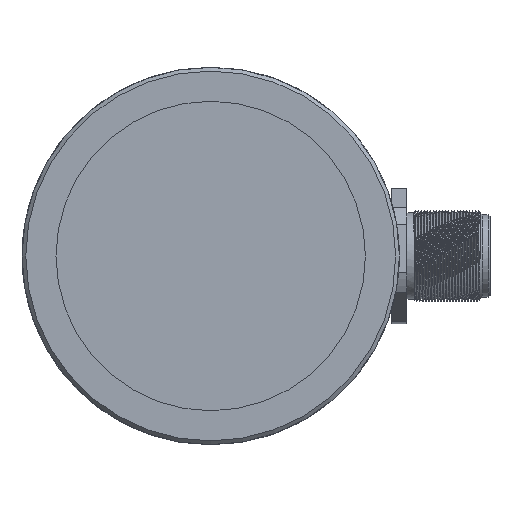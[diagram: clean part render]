
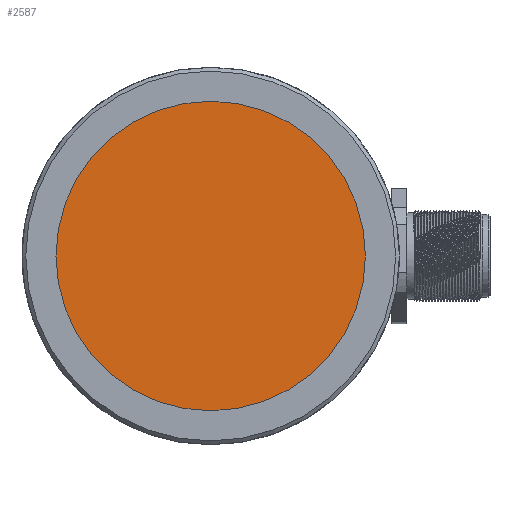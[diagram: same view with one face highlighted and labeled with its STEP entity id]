
A CAD part, left-side view. The second image highlights one B-rep face of the part: STEP entity #2587.
In plain terms, the highlighted planar face has unit normal (-1, 0, 0).
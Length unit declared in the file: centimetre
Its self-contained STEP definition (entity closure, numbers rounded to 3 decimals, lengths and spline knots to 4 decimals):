
#444=PLANE('',#2773);
#799=VERTEX_POINT('',#3001);
#1015=CIRCLE('',#2772,2.05);
#1107=EDGE_CURVE('',#799,#799,#1015,.T.);
#1462=ORIENTED_EDGE('',*,*,#1107,.T.);
#2157=EDGE_LOOP('',(#1462));
#2377=FACE_BOUND('',#2157,.T.);
#2587=ADVANCED_FACE('',(#2377),#444,.F.);
#2772=AXIS2_PLACEMENT_3D('',#3000,#14402,#14403);
#2773=AXIS2_PLACEMENT_3D('',#3002,#14404,$);
#3000=CARTESIAN_POINT('',(-2.7,0.,0.));
#3001=CARTESIAN_POINT('',(-2.7,0.,-2.05));
#3002=CARTESIAN_POINT('',(-2.7,0.,0.));
#14402=DIRECTION('',(-1.,0.,0.));
#14403=DIRECTION('',(0.,0.,-2.05));
#14404=DIRECTION('',(1.,0.,0.));
